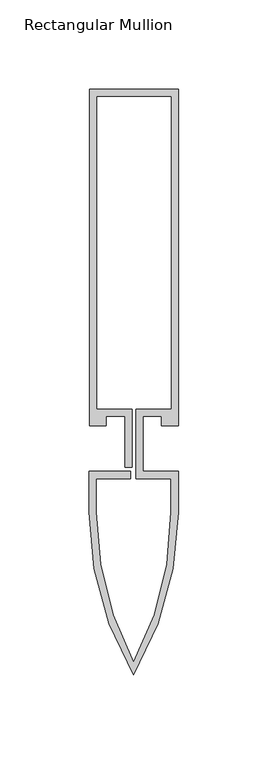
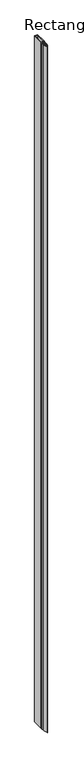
"""IFC4 building model written with IfcOpenShell, lengths in millimetres: member geometry, Rectangular Mullion : Reynaers_CW-50_Transom-Transom_188.5mm_Facecap-05."""

from ifc_helpers import new_model, si_unit, point, frame, frame_2d, origin, place, context, project, spatial, polyline, circle_curve, trimmed, segment, composite_curve, outline, extrude, source, transform, mapped, element, save


def rectangular_mullion_60d12d85(model_context):
    return source(origin(), model_context, "Body", "SweptSolid", [
        extrude(outline(composite_curve([segment(polyline([(25.1995941, 12.7331291), (15.499, 12.7331291), (15.499, 18.1331291), (5.2995941, 18.1331291), (5.2995941, -12.7331291), (24.994845, -12.7331291), (24.994845, -35.5313894)]), True, "CONTINUOUS"), segment(trimmed(circle_curve(frame_2d((-153.8920333, -35.5313894)), 178.8868784), [point((24.994845, -35.5313894))], [point((0.0, -126.7331291))], False, "CARTESIAN"), True, "CONTINUOUS"), segment(trimmed(circle_curve(frame_2d((153.8920333, -35.5313894)), 178.8868784), [point((0.0, -126.7331291))], [point((-24.994845, -35.5313894))], False, "CARTESIAN"), True, "CONTINUOUS"), segment(polyline([(-24.994845, -35.5313894), (-24.994845, -12.7331291), (-1.9004059, -12.7331291), (-1.9004059, -16.7331291), (-20.994845, -16.7331291), (-20.994845, -35.5313894)]), True, "CONTINUOUS"), segment(trimmed(circle_curve(frame_2d((158.3679339, -35.5313894)), 179.3627789), [point((-20.994845, -35.5313894))], [point((0.0, -119.7371135))], True, "CARTESIAN"), True, "CONTINUOUS"), segment(trimmed(circle_curve(frame_2d((-158.3679339, -35.5313894)), 179.3627789), [point((0.0, -119.7371135))], [point((20.994845, -35.5313894))], True, "CARTESIAN"), True, "CONTINUOUS"), segment(polyline([(20.994845, -35.5313894), (20.994845, -16.7331291), (1.2995941, -16.7331291), (1.2995941, 22.1331291), (21.1995941, 22.1331291), (21.1995941, 197.2331291), (-20.8004059, 197.2331291), (-20.8004059, 22.1331291), (-0.9004059, 22.1331291), (-0.9004059, -10.5), (-4.9004059, -10.5), (-4.9004059, 18.1331291), (-15.499, 18.1331291), (-15.499, 12.7331291), (-24.8004059, 12.7331291), (-24.8004059, 201.2331291), (25.1995941, 201.2331291), (25.1995941, 12.7331291)]), True, "CONTINUOUS")], self_intersect=False)), frame((0.0, 0.0, -12000.0), z_axis=(0.0, 0.0, 1.0), x_axis=(1.0, 0.0, 0.0)), (0.0, 0.0, 1.0), 12000.0),
    ])


if __name__ == "__main__":
    model = new_model("IFC4")
    model_context = context("Model", 3, world=origin())
    ifc_project = project(units=[si_unit("LENGTHUNIT", "METRE", prefix="MILLI")], contexts=[model_context])
    site = spatial("IfcSite", under=ifc_project)
    building = spatial("IfcBuilding", under=site)
    placement = place(None, origin())
    rectangular_mullion_shape = rectangular_mullion_60d12d85(model_context)
    element("IfcMember", 1, ObjectType="Rectangular Mullion : Reynaers_CW-50_Transom-Transom_188.5mm_Facecap-05", at=placement, inside=building, context=model_context, shape_type="MappedRepresentation", body=[
        mapped(rectangular_mullion_shape, transform((0.0, 0.0, 0.0), x_axis=(1.0, 0.0, 0.0), y_axis=(0.0, 1.0, 0.0), z_axis=(0.0, 0.0, 1.0))),
    ])
    save(model, "model.ifc")
